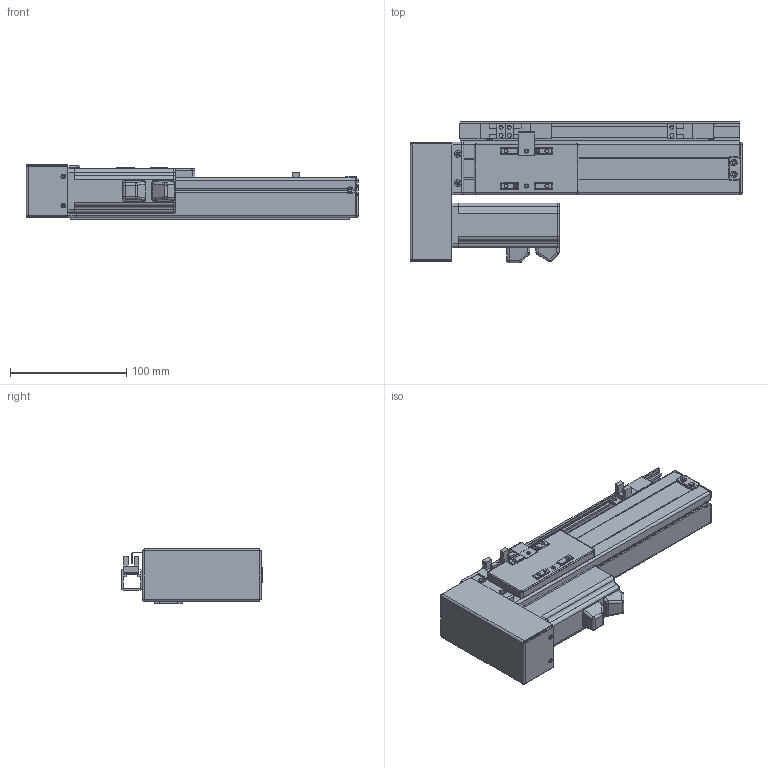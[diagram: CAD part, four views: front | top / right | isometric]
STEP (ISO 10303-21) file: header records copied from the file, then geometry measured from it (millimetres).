
FILE_DESCRIPTION (( 'STEP AP203' ), '1' );
FILE_NAME ('VT4-S120-BL.STEP', '2016-06-17T09:18:39', ( '' ), ( '' ), 'SwSTEP 2.0', 'SolidWorks 2013', '' );
FILE_SCHEMA (( 'CONFIG_CONTROL_DESIGN' ));
Length unit declared in the file: millimetre
Products named in the file (17): T4-揤輸; EE-SX674-WR; SFKR0802佪裝TBI_俴最120; T4-覜茼え; MGW12C-絳寢_俴最120; 侂狟100W MSMD012G1U; T4-BLRM 粣創釱; VT4-S120-BL; T4-BLRM ヶ傷揤輸_A6061; T4-綴傷裔; 詩湍; T4-耜啣羲耀芞2_俴最120; T4-BLR 萇儂欶; T4-賑雄殤; T4-BLR 100w萇儂假蚾啣_A6061; T4-裔啣; T6-癹弇羲壽羞_俴最120
Assembly tree (19 placements, depth 2):
  VT4-S120-BL
    T4-綴傷裔
    T4-耜啣羲耀芞2_俴最120  x2
    T4-賑雄殤
    T4-裔啣
    T4-揤輸
    SFKR0802佪裝TBI_俴最120
    MGW12C-絳寢_俴最120
    T4-BLRM 粣創釱
    T4-BLRM ヶ傷揤輸_A6061
    詩湍
    T4-BLR 萇儂欶
    T4-BLR 100w萇儂假蚾啣_A6061
    T6-癹弇羲壽羞_俴最120
    EE-SX674-WR  x3
    T4-覜茼え
    侂狟100W MSMD012G1U
Bounding box: 285 x 121.25 x 47.25 mm (x, y, z)
Volume: 358401.4 mm3; surface area: 236188.7 mm2
Topology: 22 solids, 22 shells, 1212 faces, 3242 edges, 2049 vertices
Faces by surface type: plane 561, cylinder 536, cone 57, torus 30, sphere 20, bspline 8
Entity records: 34125 total; most frequent: CARTESIAN_POINT 6511, DIRECTION 5522, ORIENTED_EDGE 5260, EDGE_CURVE 2630, AXIS2_PLACEMENT_3D 1972, VERTEX_POINT 1683, VECTOR 1578, LINE 1578
